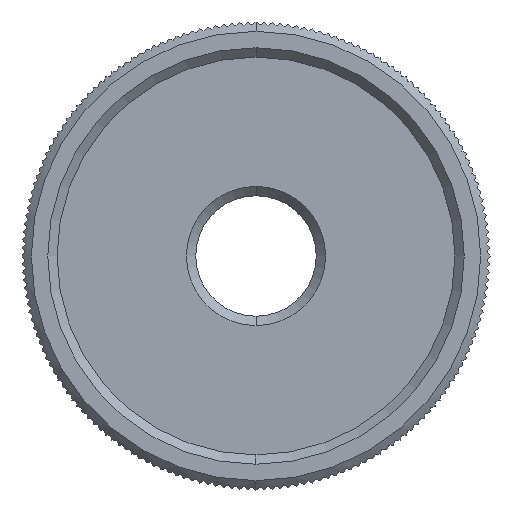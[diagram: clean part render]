
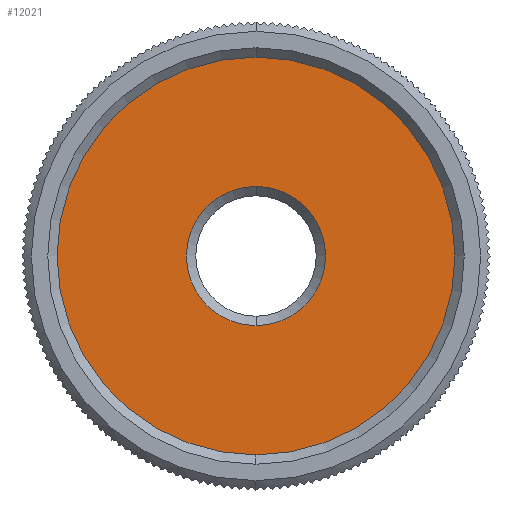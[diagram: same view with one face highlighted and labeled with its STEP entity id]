
A CAD part, left-side view. The second image highlights one B-rep face of the part: STEP entity #12021.
In plain terms, the highlighted planar face has unit normal (-1, 0, 0).
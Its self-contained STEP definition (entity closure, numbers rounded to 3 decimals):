
#2480 = DIRECTION ( 'NONE',  ( 0., 0., 1. ) ) ;
#2481 = DIRECTION ( 'NONE',  ( -1., 0., 0. ) ) ;
#2482 = CARTESIAN_POINT ( 'NONE',  ( -6., 0., 0. ) ) ;
#2483 = AXIS2_PLACEMENT_3D ( 'NONE', #2482, #2481, #2480 ) ;
#2487 = CIRCLE ( 'NONE', #2483, 17. ) ;
#2537 = CARTESIAN_POINT ( 'NONE',  ( -6., 0., 17. ) ) ;
#2538 = CARTESIAN_POINT ( 'NONE',  ( -6., 0., -17. ) ) ;
#2559 = DIRECTION ( 'NONE',  ( 0., 0., 1. ) ) ;
#2560 = DIRECTION ( 'NONE',  ( 1., 0., 0. ) ) ;
#2561 = CARTESIAN_POINT ( 'NONE',  ( -6., 0., 0. ) ) ;
#2562 = AXIS2_PLACEMENT_3D ( 'NONE', #2561, #2560, #2559 ) ;
#2563 = CIRCLE ( 'NONE', #2562, 5.95 ) ;
#2564 = CARTESIAN_POINT ( 'NONE',  ( -6., 0., -5.95 ) ) ;
#2612 = CARTESIAN_POINT ( 'NONE',  ( -6., 0., 5.95 ) ) ;
#6997 = CIRCLE ( 'NONE', #7055, 5.95 ) ;
#6998 = DIRECTION ( 'NONE',  ( 0., 0., 1. ) ) ;
#6999 = DIRECTION ( 'NONE',  ( -1., 0., 0. ) ) ;
#7000 = CARTESIAN_POINT ( 'NONE',  ( -6., 0., 0. ) ) ;
#7002 = AXIS2_PLACEMENT_3D ( 'NONE', #7000, #6999, #6998 ) ;
#7003 = PLANE ( 'NONE',  #7002 ) ;
#7008 = FACE_OUTER_BOUND ( 'NONE', #12029, .T. ) ;
#7011 = FACE_BOUND ( 'NONE', #12023, .T. ) ;
#7048 = DIRECTION ( 'NONE',  ( 0., 0., 1. ) ) ;
#7049 = DIRECTION ( 'NONE',  ( -1., 0., 0. ) ) ;
#7050 = AXIS2_PLACEMENT_3D ( 'NONE', #7056, #7049, #7048 ) ;
#7051 = CIRCLE ( 'NONE', #7050, 17. ) ;
#7052 = DIRECTION ( 'NONE',  ( 0., 0., 1. ) ) ;
#7053 = DIRECTION ( 'NONE',  ( 1., 0., 0. ) ) ;
#7054 = CARTESIAN_POINT ( 'NONE',  ( -6., 0., 0. ) ) ;
#7055 = AXIS2_PLACEMENT_3D ( 'NONE', #7054, #7053, #7052 ) ;
#7056 = CARTESIAN_POINT ( 'NONE',  ( -6., 0., 0. ) ) ;
#9389 = EDGE_CURVE ( 'NONE', #9390, #9391, #2487, .T. ) ;
#9390 = VERTEX_POINT ( 'NONE', #2538 ) ;
#9391 = VERTEX_POINT ( 'NONE', #2537 ) ;
#9427 = VERTEX_POINT ( 'NONE', #2564 ) ;
#9429 = EDGE_CURVE ( 'NONE', #9430, #9427, #2563, .T. ) ;
#9430 = VERTEX_POINT ( 'NONE', #2612 ) ;
#12021 = ADVANCED_FACE ( 'NONE', ( #7011, #7008 ), #7003, .T. ) ;
#12023 = EDGE_LOOP ( 'NONE', ( #12025, #12026 ) ) ;
#12025 = ORIENTED_EDGE ( 'NONE', *, *, #9429, .T. ) ;
#12026 = ORIENTED_EDGE ( 'NONE', *, *, #12027, .T. ) ;
#12027 = EDGE_CURVE ( 'NONE', #9427, #9430, #6997, .T. ) ;
#12029 = EDGE_LOOP ( 'NONE', ( #12030, #12077 ) ) ;
#12030 = ORIENTED_EDGE ( 'NONE', *, *, #12031, .T. ) ;
#12031 = EDGE_CURVE ( 'NONE', #9391, #9390, #7051, .T. ) ;
#12077 = ORIENTED_EDGE ( 'NONE', *, *, #9389, .T. ) ;
